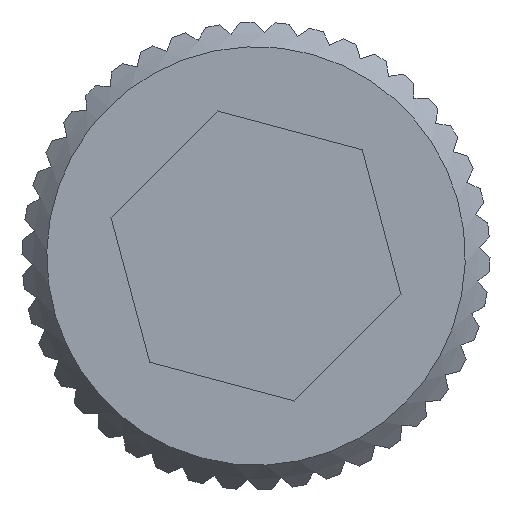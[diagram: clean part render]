
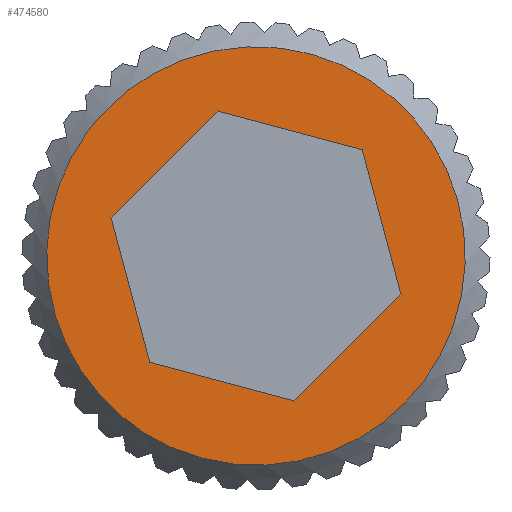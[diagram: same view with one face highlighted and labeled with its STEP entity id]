
A CAD part, left-side view. The second image highlights one B-rep face of the part: STEP entity #474580.
In plain terms, the highlighted free-form (B-spline) face has degree [1, 1] with [2, 2] control points.
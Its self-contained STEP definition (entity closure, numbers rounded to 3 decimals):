
#473550 = CARTESIAN_POINT ('', (0., 12.596, 12.596));
#473560 = VERTEX_POINT ('', #473550);
#473620 = CARTESIAN_POINT ('', (0., 12.596, 12.596));
#473630 = CARTESIAN_POINT ('', (0., 7.716, 17.476));
#473640 = CARTESIAN_POINT ('', (0., 2.836, 12.596));
#473650 = CARTESIAN_POINT ('', (0., -2.044, 7.716));
#473660 = CARTESIAN_POINT ('', (0., 2.836, 2.836));
#473670 = CARTESIAN_POINT ('', (0., 7.716, -2.044));
#473680 = CARTESIAN_POINT ('', (0., 12.596, 2.836));
#473690 = CARTESIAN_POINT ('', (0., 17.476, 7.716));
#473700 = CARTESIAN_POINT ('', (0., 12.596, 12.596));
#473710 = (
   BOUNDED_CURVE ()
   B_SPLINE_CURVE (2, (#473620, #473630, #473640, #473650, #473660, #473670, #473680, #473690, #473700), .UNSPECIFIED., .T., .U.)
   B_SPLINE_CURVE_WITH_KNOTS ((3, 2, 2, 2, 3), (0., 0.25, 0.5, 0.75, 1.), .UNSPECIFIED.)
   CURVE ()
   GEOMETRIC_REPRESENTATION_ITEM ()
   RATIONAL_B_SPLINE_CURVE ((1., 0.707, 1., 0.707, 1., 0.707, 1., 0.707, 1.))
   REPRESENTATION_ITEM ('')
);
#473720 = EDGE_CURVE ('', #473560, #473560, #473710, .T.);
#474060 = ORIENTED_EDGE ('', *, *, #473720, .F.);
#474070 = EDGE_LOOP ('', (#474060));
#474080 = FACE_OUTER_BOUND ('', #474070, .T.);
#474090 = CARTESIAN_POINT ('', (0., 2.935, 6.435));
#474100 = VERTEX_POINT ('', #474090);
#474110 = CARTESIAN_POINT ('', (0., 6.435, 2.935));
#474120 = VERTEX_POINT ('', #474110);
#474130 = CARTESIAN_POINT ('', (0., 2.935, 6.435));
#474140 = CARTESIAN_POINT ('', (0., 6.435, 2.935));
#474150 = B_SPLINE_CURVE_WITH_KNOTS ('', 1, (#474130, #474140), .UNSPECIFIED., .F., .U., (2, 2), (0., 1.), .UNSPECIFIED.);
#474160 = EDGE_CURVE ('', #474100, #474120, #474150, .T.);
#474170 = ORIENTED_EDGE ('', *, *, #474160, .T.);
#474180 = CARTESIAN_POINT ('', (0., 11.217, 4.216));
#474190 = VERTEX_POINT ('', #474180);
#474200 = CARTESIAN_POINT ('', (0., 6.435, 2.935));
#474210 = CARTESIAN_POINT ('', (0., 11.217, 4.216));
#474220 = B_SPLINE_CURVE_WITH_KNOTS ('', 1, (#474200, #474210), .UNSPECIFIED., .F., .U., (2, 2), (0., 1.), .UNSPECIFIED.);
#474230 = EDGE_CURVE ('', #474120, #474190, #474220, .T.);
#474240 = ORIENTED_EDGE ('', *, *, #474230, .T.);
#474250 = CARTESIAN_POINT ('', (0., 12.498, 8.998));
#474260 = VERTEX_POINT ('', #474250);
#474270 = CARTESIAN_POINT ('', (0., 11.217, 4.216));
#474280 = CARTESIAN_POINT ('', (0., 12.498, 8.998));
#474290 = B_SPLINE_CURVE_WITH_KNOTS ('', 1, (#474270, #474280), .UNSPECIFIED., .F., .U., (2, 2), (0., 1.), .UNSPECIFIED.);
#474300 = EDGE_CURVE ('', #474190, #474260, #474290, .T.);
#474310 = ORIENTED_EDGE ('', *, *, #474300, .T.);
#474320 = CARTESIAN_POINT ('', (0., 8.998, 12.498));
#474330 = VERTEX_POINT ('', #474320);
#474340 = CARTESIAN_POINT ('', (0., 12.498, 8.998));
#474350 = CARTESIAN_POINT ('', (0., 8.998, 12.498));
#474360 = B_SPLINE_CURVE_WITH_KNOTS ('', 1, (#474340, #474350), .UNSPECIFIED., .F., .U., (2, 2), (0., 1.), .UNSPECIFIED.);
#474370 = EDGE_CURVE ('', #474260, #474330, #474360, .T.);
#474380 = ORIENTED_EDGE ('', *, *, #474370, .T.);
#474390 = CARTESIAN_POINT ('', (0., 4.216, 11.217));
#474400 = VERTEX_POINT ('', #474390);
#474410 = CARTESIAN_POINT ('', (0., 8.998, 12.498));
#474420 = CARTESIAN_POINT ('', (0., 4.216, 11.217));
#474430 = B_SPLINE_CURVE_WITH_KNOTS ('', 1, (#474410, #474420), .UNSPECIFIED., .F., .U., (2, 2), (0., 1.), .UNSPECIFIED.);
#474440 = EDGE_CURVE ('', #474330, #474400, #474430, .T.);
#474450 = ORIENTED_EDGE ('', *, *, #474440, .T.);
#474460 = CARTESIAN_POINT ('', (0., 4.216, 11.217));
#474470 = CARTESIAN_POINT ('', (0., 2.935, 6.435));
#474480 = B_SPLINE_CURVE_WITH_KNOTS ('', 1, (#474460, #474470), .UNSPECIFIED., .F., .U., (2, 2), (0., 1.), .UNSPECIFIED.);
#474490 = EDGE_CURVE ('', #474400, #474100, #474480, .T.);
#474500 = ORIENTED_EDGE ('', *, *, #474490, .T.);
#474510 = EDGE_LOOP ('', (#474170, #474240, #474310, #474380, #474450, #474500));
#474520 = FACE_BOUND ('', #474510, .T.);
#474530 = CARTESIAN_POINT ('', (0., -22.054, 8.151));
#474540 = CARTESIAN_POINT ('', (0., 6.932, -20.835));
#474550 = CARTESIAN_POINT ('', (0., 6.932, 37.137));
#474560 = CARTESIAN_POINT ('', (0., 35.917, 8.151));
#474570 = B_SPLINE_SURFACE_WITH_KNOTS ('', 1, 1, ((#474530, #474540), (#474550, #474560)), .UNSPECIFIED., .F., .F., .U., (2, 2), (2, 2), (0., 1.), (0., 1.), .UNSPECIFIED.);
#474580 = ADVANCED_FACE ('', (#474080, #474520), #474570, .T.);
